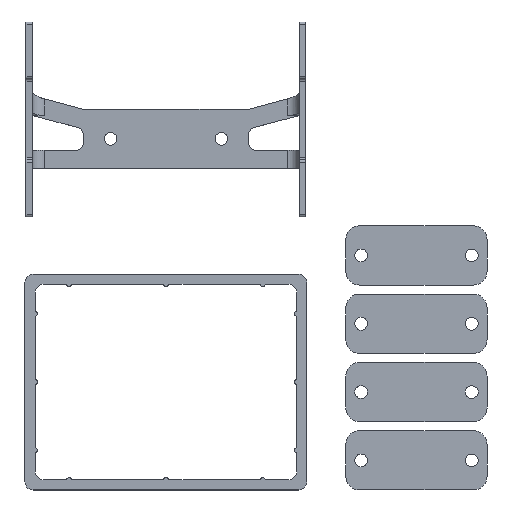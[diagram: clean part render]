
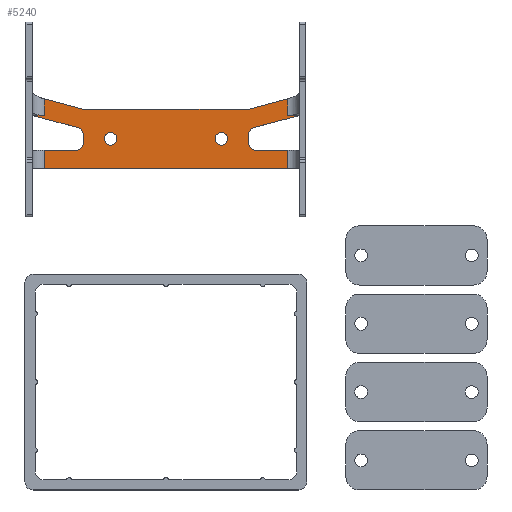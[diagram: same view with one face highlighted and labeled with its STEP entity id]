
A CAD part, top view. The second image highlights one B-rep face of the part: STEP entity #5240.
In plain terms, the highlighted planar face has unit normal (0, 0, 1) as drawn and (0, 1, 0) by its records, which use the part's own axes.
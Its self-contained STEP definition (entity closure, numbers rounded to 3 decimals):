
#240=CIRCLE('',#5736,2.75);
#241=CIRCLE('',#5737,2.75);
#242=CIRCLE('',#5738,5.);
#243=CIRCLE('',#5739,3.);
#244=CIRCLE('',#5740,3.);
#245=CIRCLE('',#5741,3.);
#246=CIRCLE('',#5742,3.);
#247=CIRCLE('',#5743,5.);
#1084=ORIENTED_EDGE('',*,*,#2484,.T.);
#1085=ORIENTED_EDGE('',*,*,#2485,.T.);
#1086=ORIENTED_EDGE('',*,*,#2486,.F.);
#1087=ORIENTED_EDGE('',*,*,#2487,.F.);
#1088=ORIENTED_EDGE('',*,*,#2459,.F.);
#1089=ORIENTED_EDGE('',*,*,#2488,.T.);
#1090=ORIENTED_EDGE('',*,*,#2489,.F.);
#1091=ORIENTED_EDGE('',*,*,#2490,.F.);
#1092=ORIENTED_EDGE('',*,*,#2491,.F.);
#1093=ORIENTED_EDGE('',*,*,#2492,.F.);
#1094=ORIENTED_EDGE('',*,*,#2493,.F.);
#1095=ORIENTED_EDGE('',*,*,#2494,.F.);
#1096=ORIENTED_EDGE('',*,*,#2495,.F.);
#1097=ORIENTED_EDGE('',*,*,#2496,.F.);
#1098=ORIENTED_EDGE('',*,*,#2497,.F.);
#1099=ORIENTED_EDGE('',*,*,#2498,.T.);
#1100=ORIENTED_EDGE('',*,*,#2499,.F.);
#1101=ORIENTED_EDGE('',*,*,#2500,.F.);
#1102=ORIENTED_EDGE('',*,*,#2501,.F.);
#1103=ORIENTED_EDGE('',*,*,#2502,.F.);
#1104=ORIENTED_EDGE('',*,*,#2503,.F.);
#1105=ORIENTED_EDGE('',*,*,#2504,.T.);
#1106=ORIENTED_EDGE('',*,*,#2505,.F.);
#1107=ORIENTED_EDGE('',*,*,#2506,.T.);
#1108=ORIENTED_EDGE('',*,*,#2457,.T.);
#1109=ORIENTED_EDGE('',*,*,#2507,.F.);
#1110=ORIENTED_EDGE('',*,*,#2508,.F.);
#1111=ORIENTED_EDGE('',*,*,#2509,.F.);
#2457=EDGE_CURVE('',#3189,#3188,#3662,.T.);
#2459=EDGE_CURVE('',#3190,#3191,#3663,.T.);
#2484=EDGE_CURVE('',#3214,#3214,#240,.T.);
#2485=EDGE_CURVE('',#3215,#3215,#241,.T.);
#2486=EDGE_CURVE('',#3216,#3217,#242,.T.);
#2487=EDGE_CURVE('',#3191,#3216,#3678,.T.);
#2488=EDGE_CURVE('',#3190,#3218,#3679,.T.);
#2489=EDGE_CURVE('',#3219,#3218,#3680,.T.);
#2490=EDGE_CURVE('',#3220,#3219,#3681,.T.);
#2491=EDGE_CURVE('',#3221,#3220,#3682,.T.);
#2492=EDGE_CURVE('',#3222,#3221,#243,.T.);
#2493=EDGE_CURVE('',#3223,#3222,#3683,.T.);
#2494=EDGE_CURVE('',#3224,#3223,#244,.T.);
#2495=EDGE_CURVE('',#3225,#3224,#3684,.T.);
#2496=EDGE_CURVE('',#3226,#3225,#3685,.T.);
#2497=EDGE_CURVE('',#3227,#3226,#3686,.T.);
#2498=EDGE_CURVE('',#3227,#3228,#3687,.T.);
#2499=EDGE_CURVE('',#3229,#3228,#3688,.T.);
#2500=EDGE_CURVE('',#3230,#3229,#245,.T.);
#2501=EDGE_CURVE('',#3231,#3230,#3689,.T.);
#2502=EDGE_CURVE('',#3232,#3231,#246,.T.);
#2503=EDGE_CURVE('',#3233,#3232,#3690,.T.);
#2504=EDGE_CURVE('',#3233,#3234,#3691,.T.);
#2505=EDGE_CURVE('',#3235,#3234,#3692,.F.);
#2506=EDGE_CURVE('',#3235,#3189,#3693,.T.);
#2507=EDGE_CURVE('',#3236,#3188,#3694,.T.);
#2508=EDGE_CURVE('',#3237,#3236,#247,.T.);
#2509=EDGE_CURVE('',#3217,#3237,#3695,.T.);
#3188=VERTEX_POINT('',#8492);
#3189=VERTEX_POINT('',#8494);
#3190=VERTEX_POINT('',#8498);
#3191=VERTEX_POINT('',#8499);
#3214=VERTEX_POINT('',#8549);
#3215=VERTEX_POINT('',#8551);
#3216=VERTEX_POINT('',#8553);
#3217=VERTEX_POINT('',#8554);
#3218=VERTEX_POINT('',#8557);
#3219=VERTEX_POINT('',#8559);
#3220=VERTEX_POINT('',#8561);
#3221=VERTEX_POINT('',#8563);
#3222=VERTEX_POINT('',#8565);
#3223=VERTEX_POINT('',#8567);
#3224=VERTEX_POINT('',#8569);
#3225=VERTEX_POINT('',#8571);
#3226=VERTEX_POINT('',#8573);
#3227=VERTEX_POINT('',#8575);
#3228=VERTEX_POINT('',#8577);
#3229=VERTEX_POINT('',#8579);
#3230=VERTEX_POINT('',#8581);
#3231=VERTEX_POINT('',#8583);
#3232=VERTEX_POINT('',#8585);
#3233=VERTEX_POINT('',#8587);
#3234=VERTEX_POINT('',#8589);
#3235=VERTEX_POINT('',#8591);
#3236=VERTEX_POINT('',#8594);
#3237=VERTEX_POINT('',#8596);
#3662=LINE('',#8493,#4100);
#3663=LINE('',#8497,#4101);
#3678=LINE('',#8555,#4116);
#3679=LINE('',#8556,#4117);
#3680=LINE('',#8558,#4118);
#3681=LINE('',#8560,#4119);
#3682=LINE('',#8562,#4120);
#3683=LINE('',#8566,#4121);
#3684=LINE('',#8570,#4122);
#3685=LINE('',#8572,#4123);
#3686=LINE('',#8574,#4124);
#3687=LINE('',#8576,#4125);
#3688=LINE('',#8578,#4126);
#3689=LINE('',#8582,#4127);
#3690=LINE('',#8586,#4128);
#3691=LINE('',#8588,#4129);
#3692=LINE('',#8590,#4130);
#3693=LINE('',#8592,#4131);
#3694=LINE('',#8593,#4132);
#3695=LINE('',#8597,#4133);
#4100=VECTOR('',#6720,1000.);
#4101=VECTOR('',#6725,1000.);
#4116=VECTOR('',#6770,1000.);
#4117=VECTOR('',#6771,1000.);
#4118=VECTOR('',#6772,1000.);
#4119=VECTOR('',#6773,1000.);
#4120=VECTOR('',#6774,1000.);
#4121=VECTOR('',#6777,1000.);
#4122=VECTOR('',#6780,1000.);
#4123=VECTOR('',#6781,1000.);
#4124=VECTOR('',#6782,1000.);
#4125=VECTOR('',#6783,1000.);
#4126=VECTOR('',#6784,1000.);
#4127=VECTOR('',#6787,1000.);
#4128=VECTOR('',#6790,1000.);
#4129=VECTOR('',#6791,1000.);
#4130=VECTOR('',#6792,1000.);
#4131=VECTOR('',#6793,1000.);
#4132=VECTOR('',#6794,1000.);
#4133=VECTOR('',#6797,1000.);
#4469=EDGE_LOOP('',(#1084));
#4470=EDGE_LOOP('',(#1085));
#4471=EDGE_LOOP('',(#1086,#1087,#1088,#1089,#1090,#1091,#1092,#1093,#1094,
#1095,#1096,#1097,#1098,#1099,#1100,#1101,#1102,#1103,#1104,#1105,#1106,
#1107,#1108,#1109,#1110,#1111));
#4801=FACE_BOUND('',#4469,.T.);
#4802=FACE_BOUND('',#4470,.T.);
#4803=FACE_BOUND('',#4471,.T.);
#5083=PLANE('',#5735);
#5240=ADVANCED_FACE('',(#4801,#4802,#4803),#5083,.T.);
#5735=AXIS2_PLACEMENT_3D('',#8547,#6762,#6763);
#5736=AXIS2_PLACEMENT_3D('',#8548,#6764,#6765);
#5737=AXIS2_PLACEMENT_3D('',#8550,#6766,#6767);
#5738=AXIS2_PLACEMENT_3D('',#8552,#6768,#6769);
#5739=AXIS2_PLACEMENT_3D('',#8564,#6775,#6776);
#5740=AXIS2_PLACEMENT_3D('',#8568,#6778,#6779);
#5741=AXIS2_PLACEMENT_3D('',#8580,#6785,#6786);
#5742=AXIS2_PLACEMENT_3D('',#8584,#6788,#6789);
#5743=AXIS2_PLACEMENT_3D('',#8595,#6795,#6796);
#6720=DIRECTION('',(0.,0.,-1.));
#6725=DIRECTION('',(0.,0.,-1.));
#6762=DIRECTION('',(0.,1.,0.));
#6763=DIRECTION('',(0.,0.,1.));
#6764=DIRECTION('',(0.,-1.,0.));
#6765=DIRECTION('',(0.,0.,-1.));
#6766=DIRECTION('',(0.,-1.,0.));
#6767=DIRECTION('',(0.,0.,-1.));
#6768=DIRECTION('',(0.,1.,0.));
#6769=DIRECTION('',(1.,0.,0.));
#6770=DIRECTION('',(0.966,0.,0.259));
#6771=DIRECTION('',(-1.,0.,0.));
#6772=DIRECTION('',(0.,0.,-1.));
#6773=DIRECTION('',(-1.,0.,0.));
#6774=DIRECTION('',(-0.966,0.,-0.259));
#6775=DIRECTION('',(0.,1.,0.));
#6776=DIRECTION('',(1.,0.,0.));
#6777=DIRECTION('',(0.,0.,-1.));
#6778=DIRECTION('',(0.,1.,0.));
#6779=DIRECTION('',(1.,0.,0.));
#6780=DIRECTION('',(1.,0.,0.));
#6781=DIRECTION('',(0.,0.,-1.));
#6782=DIRECTION('',(-1.,0.,0.));
#6783=DIRECTION('',(0.,0.,-1.));
#6784=DIRECTION('',(1.,0.,0.));
#6785=DIRECTION('',(0.,1.,0.));
#6786=DIRECTION('',(1.,0.,0.));
#6787=DIRECTION('',(0.,0.,1.));
#6788=DIRECTION('',(0.,1.,0.));
#6789=DIRECTION('',(1.,0.,0.));
#6790=DIRECTION('',(-0.966,0.,0.259));
#6791=DIRECTION('',(1.,0.,0.));
#6792=DIRECTION('',(0.,0.,-1.));
#6793=DIRECTION('',(-1.,0.,0.));
#6794=DIRECTION('',(0.966,0.,-0.259));
#6795=DIRECTION('',(0.,1.,0.));
#6796=DIRECTION('',(1.,0.,0.));
#6797=DIRECTION('',(1.,0.,0.));
#8492=CARTESIAN_POINT('',(53.5,3.,-30.609));
#8493=CARTESIAN_POINT('',(53.5,3.,30.));
#8494=CARTESIAN_POINT('',(53.5,3.,-23.307));
#8497=CARTESIAN_POINT('',(-53.5,3.,30.));
#8498=CARTESIAN_POINT('',(-53.5,3.,-23.307));
#8499=CARTESIAN_POINT('',(-53.5,3.,-30.609));
#8547=CARTESIAN_POINT('',(62.5,3.,-8.));
#8548=CARTESIAN_POINT('',(24.3,3.,-13.));
#8549=CARTESIAN_POINT('',(24.3,3.,-15.75));
#8550=CARTESIAN_POINT('',(-24.3,3.,-13.));
#8551=CARTESIAN_POINT('',(-24.3,3.,-15.75));
#8552=CARTESIAN_POINT('',(-35.642,3.,-31.));
#8553=CARTESIAN_POINT('',(-36.936,3.,-26.17));
#8554=CARTESIAN_POINT('',(-35.642,3.,-26.));
#8555=CARTESIAN_POINT('',(-61.5,3.,-32.752));
#8556=CARTESIAN_POINT('',(62.5,3.,-23.307));
#8557=CARTESIAN_POINT('',(-59.745,3.,-23.307));
#8558=CARTESIAN_POINT('',(-59.745,3.,30.));
#8559=CARTESIAN_POINT('',(-59.745,3.,-23.25));
#8560=CARTESIAN_POINT('',(-58.5,3.,-23.25));
#8561=CARTESIAN_POINT('',(-58.5,3.,-23.25));
#8562=CARTESIAN_POINT('',(-38.524,3.,-17.898));
#8563=CARTESIAN_POINT('',(-38.524,3.,-17.898));
#8564=CARTESIAN_POINT('',(-39.3,3.,-15.));
#8565=CARTESIAN_POINT('',(-36.3,3.,-15.));
#8566=CARTESIAN_POINT('',(-36.3,3.,-11.));
#8567=CARTESIAN_POINT('',(-36.3,3.,-11.));
#8568=CARTESIAN_POINT('',(-39.3,3.,-11.));
#8569=CARTESIAN_POINT('',(-39.3,3.,-8.));
#8570=CARTESIAN_POINT('',(-61.5,3.,-8.));
#8571=CARTESIAN_POINT('',(-53.5,3.,-8.));
#8572=CARTESIAN_POINT('',(-53.5,3.,30.));
#8573=CARTESIAN_POINT('',(-53.5,3.,0.));
#8574=CARTESIAN_POINT('',(62.5,3.,0.));
#8575=CARTESIAN_POINT('',(53.5,3.,0.));
#8576=CARTESIAN_POINT('',(53.5,3.,30.));
#8577=CARTESIAN_POINT('',(53.5,3.,-8.));
#8578=CARTESIAN_POINT('',(39.3,3.,-8.));
#8579=CARTESIAN_POINT('',(39.3,3.,-8.));
#8580=CARTESIAN_POINT('',(39.3,3.,-11.));
#8581=CARTESIAN_POINT('',(36.3,3.,-11.));
#8582=CARTESIAN_POINT('',(36.3,3.,-15.));
#8583=CARTESIAN_POINT('',(36.3,3.,-15.));
#8584=CARTESIAN_POINT('',(39.3,3.,-15.));
#8585=CARTESIAN_POINT('',(38.524,3.,-17.898));
#8586=CARTESIAN_POINT('',(58.5,3.,-23.25));
#8587=CARTESIAN_POINT('',(58.5,3.,-23.25));
#8588=CARTESIAN_POINT('',(62.5,3.,-23.25));
#8589=CARTESIAN_POINT('',(59.745,3.,-23.25));
#8590=CARTESIAN_POINT('',(59.745,3.,30.));
#8591=CARTESIAN_POINT('',(59.745,3.,-23.307));
#8592=CARTESIAN_POINT('',(62.5,3.,-23.307));
#8593=CARTESIAN_POINT('',(36.936,3.,-26.17));
#8594=CARTESIAN_POINT('',(36.936,3.,-26.17));
#8595=CARTESIAN_POINT('',(35.642,3.,-31.));
#8596=CARTESIAN_POINT('',(35.642,3.,-26.));
#8597=CARTESIAN_POINT('',(-35.642,3.,-26.));
